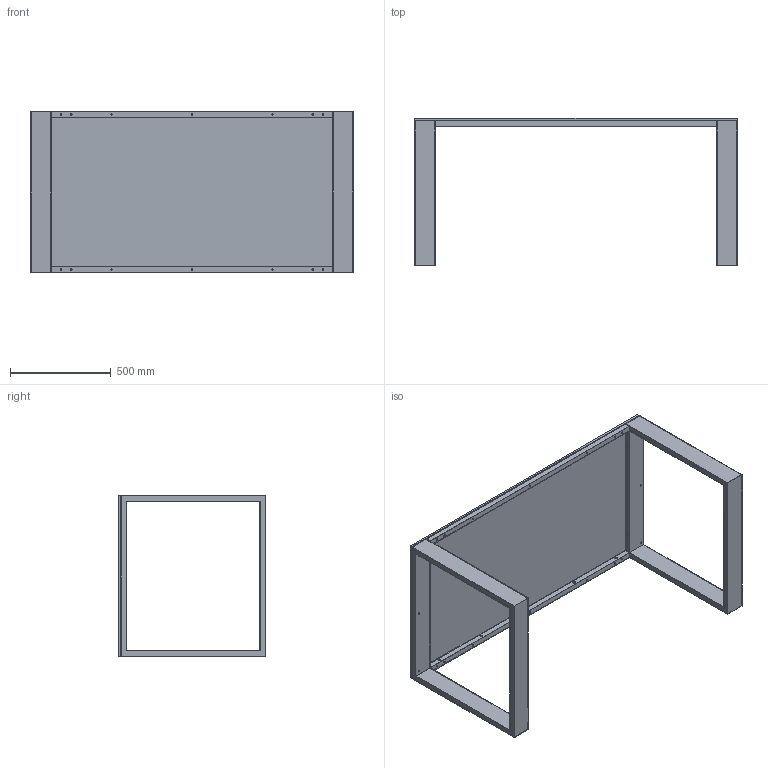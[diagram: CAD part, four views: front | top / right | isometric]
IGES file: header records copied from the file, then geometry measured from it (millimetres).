
Start section: SolidWorks IGES file using NURBS representation for surfaces
Global section: file name: G:\VICCARBE\PRODUCTOS\12-LEG-IN\04-MODELADOS (PLANOS)\SOLIDWORKS\LEG_IN 2011\ENSAMBLAJES\Mesas 3D\IGES\VICCARBE_LEB160.IGS; native system: SolidWorks 2009; preprocessor: SolidWorks 2009; author: RUBEN; date: 111024.094403; units: millimetre
Bounding box: 1600 x 732 x 800 mm (x, y, z)
Surface area: 6187082.2 mm2 (no closed solid volume)
Topology: 0 solids, 0 shells, 215 faces, 3920 edges, 3896 vertices
Faces by surface type: bspline 215
